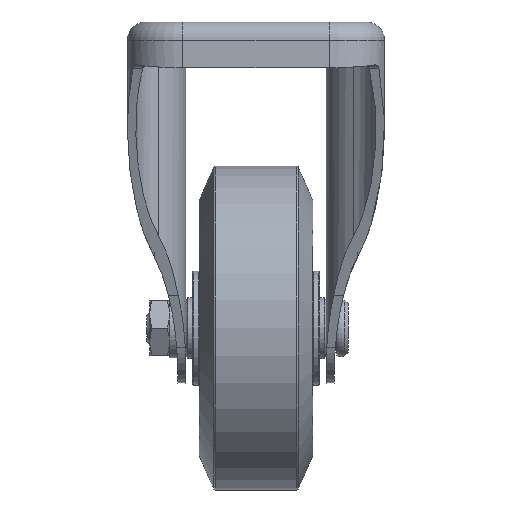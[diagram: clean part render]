
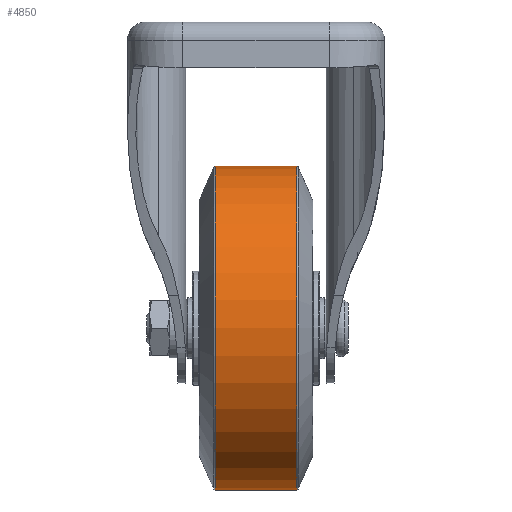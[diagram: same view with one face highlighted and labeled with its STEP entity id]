
A CAD part, front view. The second image highlights one B-rep face of the part: STEP entity #4850.
In plain terms, the highlighted cylindrical face has radius 49.7 mm (diameter 99.4 mm), a full revolution.
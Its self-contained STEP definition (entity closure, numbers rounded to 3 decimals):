
#4819=CARTESIAN_POINT('',(416.038,0.,383.276));
#4820=VERTEX_POINT('',#4819);
#4821=CARTESIAN_POINT('',(416.038,0.,333.576));
#4822=DIRECTION('',(1.0,0.0,0.0));
#4823=DIRECTION('',(0.0,0.0,1.0));
#4824=AXIS2_PLACEMENT_3D('',#4821,#4822,#4823);
#4825=CIRCLE('',#4824,49.7);
#4826=EDGE_CURVE('',#4820,#4820,#4825,.T.);
#4831=CARTESIAN_POINT('',(403.538,0.,333.576));
#4832=DIRECTION('',(-1.0,0.0,0.0));
#4833=DIRECTION('',(0.0,0.0,1.0));
#4834=AXIS2_PLACEMENT_3D('',#4831,#4832,#4833);
#4835=CYLINDRICAL_SURFACE('',#4834,49.7);
#4836=ORIENTED_EDGE('',*,*,#4826,.F.);
#4837=EDGE_LOOP('',(#4836));
#4838=FACE_OUTER_BOUND('',#4837,.T.);
#4839=CARTESIAN_POINT('',(391.038,0.,383.276));
#4840=VERTEX_POINT('',#4839);
#4841=CARTESIAN_POINT('',(391.038,0.,333.576));
#4842=DIRECTION('',(1.0,0.0,0.0));
#4843=DIRECTION('',(0.0,0.0,1.0));
#4844=AXIS2_PLACEMENT_3D('',#4841,#4842,#4843);
#4845=CIRCLE('',#4844,49.7);
#4846=EDGE_CURVE('',#4840,#4840,#4845,.T.);
#4847=ORIENTED_EDGE('',*,*,#4846,.T.);
#4848=EDGE_LOOP('',(#4847));
#4849=FACE_BOUND('',#4848,.T.);
#4850=ADVANCED_FACE('',(#4838,#4849),#4835,.T.);
